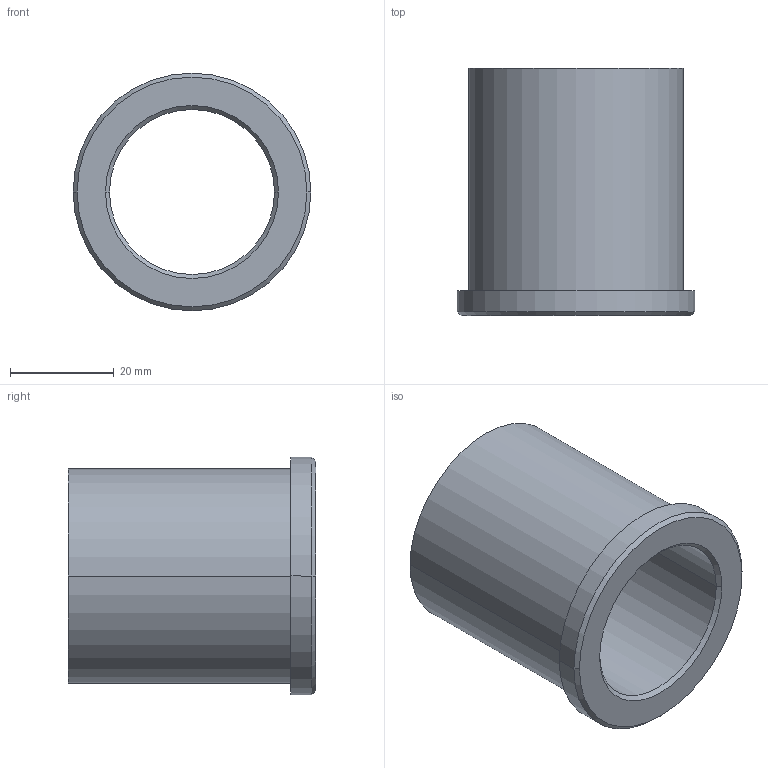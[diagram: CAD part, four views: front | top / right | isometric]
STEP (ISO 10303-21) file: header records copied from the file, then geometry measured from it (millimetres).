
FILE_DESCRIPTION (( 'STEP AP203' ), '1' );
FILE_NAME ('LBB 10-17.step', '2014-09-14T01:17:53', ( '' ), ( '' ), 'SwSTEP 2.0', 'SolidWorks 2009', '' );
FILE_SCHEMA (( 'CONFIG_CONTROL_DESIGN' ));
Length unit declared in the file: inch
Products named in the file (1): LBB 10-17
Bounding box: 45.77 x 47.62 x 45.77 mm (x, y, z)
Volume: 27364.7 mm3; surface area: 12529.8 mm2
Topology: 1 solids, 1 shells, 15 faces, 30 edges, 18 vertices
Faces by surface type: cylinder 6, cone 4, plane 3, torus 2
Entity records: 479 total; most frequent: DIRECTION 82, CARTESIAN_POINT 64, ORIENTED_EDGE 60, AXIS2_PLACEMENT_3D 36, EDGE_CURVE 30, CIRCLE 20, VERTEX_POINT 18, EDGE_LOOP 18
